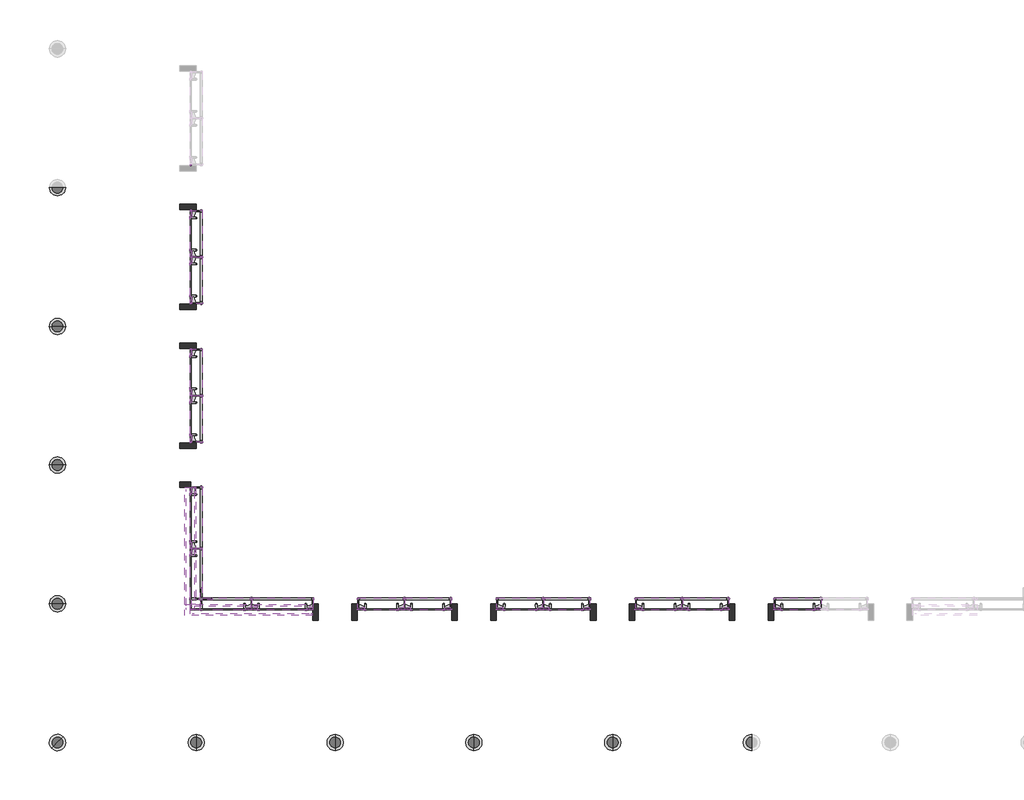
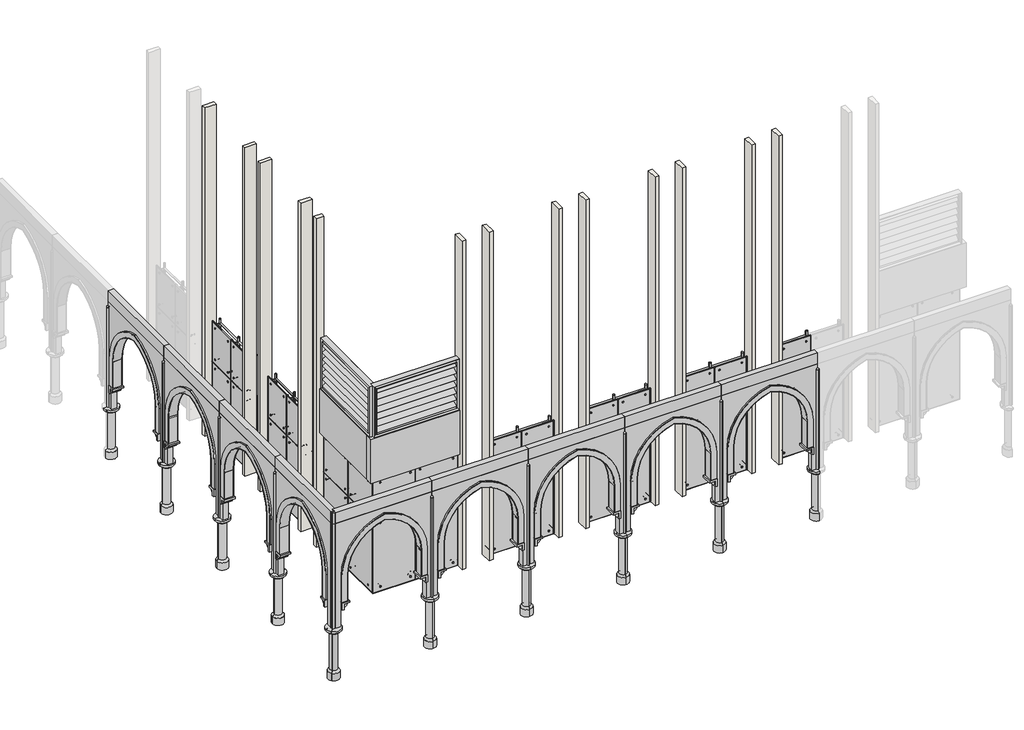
# One storey, part 1 of 3: 67 plates, 13 walls.
"""IFC4 building model written with IfcOpenShell, lengths in millimetres."""

from ifc_helpers import new_model, si_unit, frame, origin, place, context, project, spatial, polyline, outline, extrude, faceted_brep, transform, mapped, element, save
from components import plate_b319cc00, plate_6218623b, plate_8050aac1, plate_4a8f0e75, plate_5769654e, plate_331b9018, plate_eec9145b, plate_a1d4ab2c, plate_2770a3c2, plate_3a32f387, louvre_assembly_louvre_assembly_f5917f82, louvre_assembly_louvre_assembly_f5be2cc8, system_panel_glazed_bbb9c1de, system_panel_glazed_46e9ba5c, template_template_90c3116e, template_template_a81cd723, template_template_8af3e052, template_template_bfb4942e

model = new_model("IFC4")

# Units and contexts
model_context = context("Model", 3, world=origin())
ifc_project = project(units=[si_unit("LENGTHUNIT", "METRE", prefix="MILLI")], contexts=[model_context])

# Site, building, storey
site = spatial("IfcSite", under=ifc_project)
building = spatial("IfcBuilding", under=site)
storey = spatial("IfcBuildingStorey", under=building, Name="00_AR_GF_FFL", Elevation=0.0)

# Plates
placement = place(None, origin())
plate_shape = plate_b319cc00(model_context)
element("IfcPlate", 1, ObjectType="FLATNING_TRYOUT : FLATNING_TRYOUT", at=placement, inside=storey, context=model_context, shape_type="MappedRepresentation", body=[
    mapped(plate_shape, transform((-11033.5775323, -10369.430099, 0.0), x_axis=(0.0, -1.0, 0.0), y_axis=(1.0, 0.0, 0.0), z_axis=(0.0, 0.0, 1.0))),
])
element("IfcPlate", 2, ObjectType="FLATNING_TRYOUT : FLATNING_TRYOUT", at=placement, inside=storey, context=model_context, shape_type="MappedRepresentation", body=[
    mapped(plate_shape, transform((-11033.5775323, -9539.430099, 0.0), x_axis=(0.0, -1.0, 0.0), y_axis=(1.0, 0.0, 0.0), z_axis=(0.0, 0.0, 1.0))),
])
element("IfcPlate", 3, ObjectType="FLATNING_TRYOUT : FLATNING_TRYOUT", at=placement, inside=storey, context=model_context, shape_type="MappedRepresentation", body=[
    mapped(plate_shape, transform((-11033.5775323, -12869.430099, 0.0), x_axis=(0.0, -1.0, 0.0), y_axis=(1.0, 0.0, 0.0), z_axis=(0.0, 0.0, 1.0))),
])
element("IfcPlate", 4, ObjectType="FLATNING_TRYOUT : FLATNING_TRYOUT", at=placement, inside=storey, context=model_context, shape_type="MappedRepresentation", body=[
    mapped(plate_shape, transform((-11033.5775323, -12039.430099, 0.0), x_axis=(0.0, -1.0, 0.0), y_axis=(1.0, 0.0, 0.0), z_axis=(0.0, 0.0, 1.0))),
])
element("IfcPlate", 5, ObjectType="FLATNING_TRYOUT : FLATNING_TRYOUT", at=placement, inside=storey, context=model_context, shape_type="MappedRepresentation", body=[
    mapped(plate_shape, transform((-6758.5775323, -16314.430099, 0.0), x_axis=(1.0, 0.0, 0.0), y_axis=(0.0, 1.0, 0.0), z_axis=(0.0, 0.0, 1.0))),
])
element("IfcPlate", 6, ObjectType="FLATNING_TRYOUT : FLATNING_TRYOUT", at=placement, inside=storey, context=model_context, shape_type="MappedRepresentation", body=[
    mapped(plate_shape, transform((-7588.5775323, -16314.430099, 0.0), x_axis=(1.0, 0.0, 0.0), y_axis=(0.0, 1.0, 0.0), z_axis=(0.0, 0.0, 1.0))),
])
element("IfcPlate", 7, ObjectType="FLATNING_TRYOUT : FLATNING_TRYOUT", at=placement, inside=storey, context=model_context, shape_type="MappedRepresentation", body=[
    mapped(plate_shape, transform((-4258.5775323, -16314.430099, 0.0), x_axis=(1.0, 0.0, 0.0), y_axis=(0.0, 1.0, 0.0), z_axis=(0.0, 0.0, 1.0))),
])
element("IfcPlate", 8, ObjectType="FLATNING_TRYOUT : FLATNING_TRYOUT", at=placement, inside=storey, context=model_context, shape_type="MappedRepresentation", body=[
    mapped(plate_shape, transform((-5088.5775323, -16314.430099, 0.0), x_axis=(1.0, 0.0, 0.0), y_axis=(0.0, 1.0, 0.0), z_axis=(0.0, 0.0, 1.0))),
])
element("IfcPlate", 9, ObjectType="FLATNING_TRYOUT : FLATNING_TRYOUT", at=placement, inside=storey, context=model_context, shape_type="MappedRepresentation", body=[
    mapped(plate_shape, transform((-1758.5775323, -16314.430099, 0.0), x_axis=(1.0, 0.0, 0.0), y_axis=(0.0, 1.0, 0.0), z_axis=(0.0, 0.0, 1.0))),
])
element("IfcPlate", 10, ObjectType="FLATNING_TRYOUT : FLATNING_TRYOUT", at=placement, inside=storey, context=model_context, shape_type="MappedRepresentation", body=[
    mapped(plate_shape, transform((-2588.5775323, -16314.430099, 0.0), x_axis=(1.0, 0.0, 0.0), y_axis=(0.0, 1.0, 0.0), z_axis=(0.0, 0.0, 1.0))),
])
element("IfcPlate", 11, ObjectType="FLATNING_TRYOUT : FLATNING_TRYOUT", at=placement, inside=storey, context=model_context, shape_type="MappedRepresentation", body=[
    mapped(plate_shape, transform((-88.5775323, -16314.430099, 0.0), x_axis=(1.0, 0.0, 0.0), y_axis=(0.0, 1.0, 0.0), z_axis=(0.0, 0.0, 1.0))),
])
plate_2_shape = plate_6218623b(model_context)
element("IfcPlate", 12, ObjectType="FLATNING_TRYOUT : FLATNING_TRYOUT", at=placement, inside=storey, context=model_context, shape_type="MappedRepresentation", body=[
    mapped(plate_2_shape, transform((-11033.5775323, -10369.430099, 2000.0), x_axis=(0.0, -1.0, 0.0), y_axis=(1.0, 0.0, 0.0), z_axis=(0.0, 0.0, 1.0))),
])
element("IfcPlate", 13, ObjectType="FLATNING_TRYOUT : FLATNING_TRYOUT", at=placement, inside=storey, context=model_context, shape_type="MappedRepresentation", body=[
    mapped(plate_2_shape, transform((-11033.5775323, -9539.430099, 2000.0), x_axis=(0.0, -1.0, 0.0), y_axis=(1.0, 0.0, 0.0), z_axis=(0.0, 0.0, 1.0))),
])
element("IfcPlate", 14, ObjectType="FLATNING_TRYOUT : FLATNING_TRYOUT", at=placement, inside=storey, context=model_context, shape_type="MappedRepresentation", body=[
    mapped(plate_2_shape, transform((-11033.5775323, -12869.430099, 2000.0), x_axis=(0.0, -1.0, 0.0), y_axis=(1.0, 0.0, 0.0), z_axis=(0.0, 0.0, 1.0))),
])
element("IfcPlate", 15, ObjectType="FLATNING_TRYOUT : FLATNING_TRYOUT", at=placement, inside=storey, context=model_context, shape_type="MappedRepresentation", body=[
    mapped(plate_2_shape, transform((-11033.5775323, -12039.430099, 2000.0), x_axis=(0.0, -1.0, 0.0), y_axis=(1.0, 0.0, 0.0), z_axis=(0.0, 0.0, 1.0))),
])
element("IfcPlate", 16, ObjectType="FLATNING_TRYOUT : FLATNING_TRYOUT", at=placement, inside=storey, context=model_context, shape_type="MappedRepresentation", body=[
    mapped(plate_2_shape, transform((-6758.5775323, -16314.430099, 2000.0), x_axis=(1.0, 0.0, 0.0), y_axis=(0.0, 1.0, 0.0), z_axis=(0.0, 0.0, 1.0))),
])
element("IfcPlate", 17, ObjectType="FLATNING_TRYOUT : FLATNING_TRYOUT", at=placement, inside=storey, context=model_context, shape_type="MappedRepresentation", body=[
    mapped(plate_2_shape, transform((-7588.5775323, -16314.430099, 2000.0), x_axis=(1.0, 0.0, 0.0), y_axis=(0.0, 1.0, 0.0), z_axis=(0.0, 0.0, 1.0))),
])
element("IfcPlate", 18, ObjectType="FLATNING_TRYOUT : FLATNING_TRYOUT", at=placement, inside=storey, context=model_context, shape_type="MappedRepresentation", body=[
    mapped(plate_2_shape, transform((-4258.5775323, -16314.430099, 2000.0), x_axis=(1.0, 0.0, 0.0), y_axis=(0.0, 1.0, 0.0), z_axis=(0.0, 0.0, 1.0))),
])
element("IfcPlate", 19, ObjectType="FLATNING_TRYOUT : FLATNING_TRYOUT", at=placement, inside=storey, context=model_context, shape_type="MappedRepresentation", body=[
    mapped(plate_2_shape, transform((-5088.5775323, -16314.430099, 2000.0), x_axis=(1.0, 0.0, 0.0), y_axis=(0.0, 1.0, 0.0), z_axis=(0.0, 0.0, 1.0))),
])
element("IfcPlate", 20, ObjectType="FLATNING_TRYOUT : FLATNING_TRYOUT", at=placement, inside=storey, context=model_context, shape_type="MappedRepresentation", body=[
    mapped(plate_2_shape, transform((-1758.5775323, -16314.430099, 2000.0), x_axis=(1.0, 0.0, 0.0), y_axis=(0.0, 1.0, 0.0), z_axis=(0.0, 0.0, 1.0))),
])
element("IfcPlate", 21, ObjectType="FLATNING_TRYOUT : FLATNING_TRYOUT", at=placement, inside=storey, context=model_context, shape_type="MappedRepresentation", body=[
    mapped(plate_2_shape, transform((-2588.5775323, -16314.430099, 2000.0), x_axis=(1.0, 0.0, 0.0), y_axis=(0.0, 1.0, 0.0), z_axis=(0.0, 0.0, 1.0))),
])
element("IfcPlate", 22, ObjectType="FLATNING_TRYOUT : FLATNING_TRYOUT", at=placement, inside=storey, context=model_context, shape_type="MappedRepresentation", body=[
    mapped(plate_2_shape, transform((-88.5775323, -16314.430099, 2000.0), x_axis=(1.0, 0.0, 0.0), y_axis=(0.0, 1.0, 0.0), z_axis=(0.0, 0.0, 1.0))),
])
plate_3_shape = plate_8050aac1(model_context)
element("IfcPlate", 23, ObjectType="FLATNING_TRYOUT : FLATNING_TRYOUT", at=placement, inside=storey, context=model_context, shape_type="MappedRepresentation", body=[
    mapped(plate_3_shape, transform((-9376.0775323, -16314.430099, 0.0), x_axis=(-1.0, 0.0, 0.0), y_axis=(0.0, -1.0, 0.0), z_axis=(0.0, 0.0, 1.0))),
])
plate_4_shape = plate_4a8f0e75(model_context)
element("IfcPlate", 24, ObjectType="FLATNING_TRYOUT_CORNER : FLATNING_TRYOUT_CORNER", at=placement, inside=storey, context=model_context, shape_type="MappedRepresentation", body=[
    mapped(plate_4_shape, transform((-11033.5775323, -15761.930099, 0.0), x_axis=(0.0, -1.0, 0.0), y_axis=(1.0, 0.0, 0.0), z_axis=(0.0, 0.0, 1.0))),
])
plate_5_shape = plate_5769654e(model_context)
element("IfcPlate", 25, ObjectType="FLATNING_TRYOUT_CORNER : FLATNING_TRYOUT_CORNER", at=placement, inside=storey, context=model_context, shape_type="MappedRepresentation", body=[
    mapped(plate_5_shape, transform((-10481.0775323, -16314.430099, 0.0), x_axis=(-1.0, 0.0, 0.0), y_axis=(0.0, -1.0, 0.0), z_axis=(0.0, 0.0, 1.0))),
])
plate_6_shape = plate_331b9018(model_context)
element("IfcPlate", 26, ObjectType="FLATNING_TRYOUT : FLATNING_TRYOUT", at=placement, inside=storey, context=model_context, shape_type="MappedRepresentation", body=[
    mapped(plate_6_shape, transform((-11033.5775323, -14658.0252709, 0.0), x_axis=(0.0, 1.0, 0.0), y_axis=(-1.0, 0.0, 0.0), z_axis=(0.0, 0.0, 1.0))),
])
plate_7_shape = plate_eec9145b(model_context)
element("IfcPlate", 27, ObjectType="FLATNING_TRYOUT : FLATNING_TRYOUT", at=placement, inside=storey, context=model_context, shape_type="MappedRepresentation", body=[
    mapped(plate_7_shape, transform((-9376.0775323, -16314.430099, 2000.0), x_axis=(-1.0, 0.0, 0.0), y_axis=(0.0, -1.0, 0.0), z_axis=(0.0, 0.0, 1.0))),
])
plate_8_shape = plate_a1d4ab2c(model_context)
element("IfcPlate", 28, ObjectType="FLATNING_TRYOUT_CORNER : FLATNING_TRYOUT_CORNER", at=placement, inside=storey, context=model_context, shape_type="MappedRepresentation", body=[
    mapped(plate_8_shape, transform((-10481.0775323, -16314.430099, 2000.0), x_axis=(-1.0, 0.0, 0.0), y_axis=(0.0, -1.0, 0.0), z_axis=(0.0, 0.0, 1.0))),
])
plate_9_shape = plate_2770a3c2(model_context)
element("IfcPlate", 29, ObjectType="FLATNING_TRYOUT_CORNER : FLATNING_TRYOUT_CORNER", at=placement, inside=storey, context=model_context, shape_type="MappedRepresentation", body=[
    mapped(plate_9_shape, transform((-11033.5775323, -15761.930099, 2000.0), x_axis=(0.0, -1.0, 0.0), y_axis=(1.0, 0.0, 0.0), z_axis=(0.0, 0.0, 1.0))),
])
plate_10_shape = plate_3a32f387(model_context)
element("IfcPlate", 30, ObjectType="FLATNING_TRYOUT : FLATNING_TRYOUT", at=placement, inside=storey, context=model_context, shape_type="MappedRepresentation", body=[
    mapped(plate_10_shape, transform((-11033.5775323, -14658.0252709, 2000.0), x_axis=(0.0, 1.0, 0.0), y_axis=(-1.0, 0.0, 0.0), z_axis=(0.0, 0.0, 1.0))),
])
element("IfcPlate", 31, ObjectType="Generic - 200mm", at=placement, inside=storey, context=model_context, shape_type="Brep", body=[
    faceted_brep([(-8823.5775323, -16214.430099, 3105.0), (-10933.5775323, -16214.430099, 3105.0), (-11133.5775323, -16214.430099, 3105.0), (-11133.5775323, -16214.430099, 4305.0), (-10933.5775323, -16214.430099, 4305.0), (-8823.5775323, -16214.430099, 4305.0), (-8823.5775323, -16414.430099, 3105.0), (-8823.5775323, -16414.430099, 4305.0), (-11133.5775323, -16414.430099, 4305.0), (-11133.5775323, -16414.430099, 3105.0)], [[[0, 1, 2, 3, 4, 5]], [[6, 7, 8, 9]], [[2, 1, 0, 6, 9]], [[5, 4, 3, 8, 7]], [[3, 2, 9, 8]], [[0, 5, 7, 6]]]),
])
element("IfcPlate", 32, ObjectType="Generic - 200mm", at=placement, inside=storey, context=model_context, shape_type="SweptSolid", body=[
    extrude(outline(polyline([(-10933.5775323, -14106.6204427), (-10933.5775323, -16214.430099), (-11133.5775323, -16214.430099), (-11133.5775323, -14106.6204427), (-10933.5775323, -14106.6204427)])), frame((0.0, 0.0, 3105.0), z_axis=(0.0, 0.0, 1.0), x_axis=(1.0, 0.0, 0.0)), (0.0, 0.0, 1.0), 1200.0),
])
louvre_assembly_louvre_assembly_shape = louvre_assembly_louvre_assembly_f5917f82(model_context)
element("IfcPlate", 33, ObjectType="LOUVRE_ASSEMBLY : LOUVRE_ASSEMBLY", at=placement, inside=storey, context=model_context, shape_type="MappedRepresentation", body=[
    mapped(louvre_assembly_louvre_assembly_shape, transform((-9928.5775323, -16314.430099, 4305.0), x_axis=(-1.0, 0.0, 0.0), y_axis=(0.0, -1.0, 0.0), z_axis=(0.0, 0.0, 1.0))),
])
louvre_assembly_louvre_assembly_2_shape = louvre_assembly_louvre_assembly_f5be2cc8(model_context)
element("IfcPlate", 34, ObjectType="LOUVRE_ASSEMBLY : LOUVRE_ASSEMBLY", at=placement, inside=storey, context=model_context, shape_type="MappedRepresentation", body=[
    mapped(louvre_assembly_louvre_assembly_2_shape, transform((-11033.5775323, -15210.5252709, 4305.0), x_axis=(0.0, 1.0, 0.0), y_axis=(-1.0, 0.0, 0.0), z_axis=(0.0, 0.0, 1.0))),
])
system_panel_glazed_shape = system_panel_glazed_bbb9c1de(model_context)
element("IfcPlate", 35, ObjectType="System Panel : Glazed", at=placement, inside=storey, context=model_context, shape_type="MappedRepresentation", body=[
    mapped(system_panel_glazed_shape, transform((-11033.5775323, -8294.430099, 0.0), x_axis=(0.0, -1.0, 0.0), y_axis=(1.0, 0.0, 0.0), z_axis=(0.0, 0.0, 1.0))),
])
element("IfcPlate", 36, ObjectType="System Panel : Glazed", at=placement, inside=storey, context=model_context, shape_type="MappedRepresentation", body=[
    mapped(system_panel_glazed_shape, transform((-11033.5775323, -9114.430099, 0.0), x_axis=(0.0, -1.0, 0.0), y_axis=(1.0, 0.0, 0.0), z_axis=(0.0, 0.0, 1.0))),
])
element("IfcPlate", 37, ObjectType="System Panel : Glazed", at=placement, inside=storey, context=model_context, shape_type="MappedRepresentation", body=[
    mapped(system_panel_glazed_shape, transform((-11033.5775323, -10794.430099, 0.0), x_axis=(0.0, -1.0, 0.0), y_axis=(1.0, 0.0, 0.0), z_axis=(0.0, 0.0, 1.0))),
])
element("IfcPlate", 38, ObjectType="System Panel : Glazed", at=placement, inside=storey, context=model_context, shape_type="MappedRepresentation", body=[
    mapped(system_panel_glazed_shape, transform((-11033.5775323, -11614.430099, 0.0), x_axis=(0.0, -1.0, 0.0), y_axis=(1.0, 0.0, 0.0), z_axis=(0.0, 0.0, 1.0))),
])
element("IfcPlate", 39, ObjectType="System Panel : Glazed", at=placement, inside=storey, context=model_context, shape_type="MappedRepresentation", body=[
    mapped(system_panel_glazed_shape, transform((-11033.5775323, -13294.430099, 0.0), x_axis=(0.0, -1.0, 0.0), y_axis=(1.0, 0.0, 0.0), z_axis=(0.0, 0.0, 1.0))),
])
element("IfcPlate", 40, ObjectType="System Panel : Glazed", at=placement, inside=storey, context=model_context, shape_type="MappedRepresentation", body=[
    mapped(system_panel_glazed_shape, transform((-8013.5775323, -16314.430099, 0.0), x_axis=(1.0, 0.0, 0.0), y_axis=(0.0, 1.0, 0.0), z_axis=(0.0, 0.0, 1.0))),
])
element("IfcPlate", 41, ObjectType="System Panel : Glazed", at=placement, inside=storey, context=model_context, shape_type="MappedRepresentation", body=[
    mapped(system_panel_glazed_shape, transform((-6333.5775323, -16314.430099, 0.0), x_axis=(1.0, 0.0, 0.0), y_axis=(0.0, 1.0, 0.0), z_axis=(0.0, 0.0, 1.0))),
])
element("IfcPlate", 42, ObjectType="System Panel : Glazed", at=placement, inside=storey, context=model_context, shape_type="MappedRepresentation", body=[
    mapped(system_panel_glazed_shape, transform((-5513.5775323, -16314.430099, 0.0), x_axis=(1.0, 0.0, 0.0), y_axis=(0.0, 1.0, 0.0), z_axis=(0.0, 0.0, 1.0))),
])
element("IfcPlate", 43, ObjectType="System Panel : Glazed", at=placement, inside=storey, context=model_context, shape_type="MappedRepresentation", body=[
    mapped(system_panel_glazed_shape, transform((-3833.5775323, -16314.430099, 0.0), x_axis=(1.0, 0.0, 0.0), y_axis=(0.0, 1.0, 0.0), z_axis=(0.0, 0.0, 1.0))),
])
element("IfcPlate", 44, ObjectType="System Panel : Glazed", at=placement, inside=storey, context=model_context, shape_type="MappedRepresentation", body=[
    mapped(system_panel_glazed_shape, transform((-3013.5775323, -16314.430099, 0.0), x_axis=(1.0, 0.0, 0.0), y_axis=(0.0, 1.0, 0.0), z_axis=(0.0, 0.0, 1.0))),
])
element("IfcPlate", 45, ObjectType="System Panel : Glazed", at=placement, inside=storey, context=model_context, shape_type="MappedRepresentation", body=[
    mapped(system_panel_glazed_shape, transform((-1333.5775323, -16314.430099, 0.0), x_axis=(1.0, 0.0, 0.0), y_axis=(0.0, 1.0, 0.0), z_axis=(0.0, 0.0, 1.0))),
])
element("IfcPlate", 46, ObjectType="System Panel : Glazed", at=placement, inside=storey, context=model_context, shape_type="MappedRepresentation", body=[
    mapped(system_panel_glazed_shape, transform((-513.5775323, -16314.430099, 0.0), x_axis=(1.0, 0.0, 0.0), y_axis=(0.0, 1.0, 0.0), z_axis=(0.0, 0.0, 1.0))),
])
system_panel_glazed_2_shape = system_panel_glazed_46e9ba5c(model_context)
element("IfcPlate", 47, ObjectType="System Panel : Glazed", at=placement, inside=storey, context=model_context, shape_type="MappedRepresentation", body=[
    mapped(system_panel_glazed_2_shape, transform((-11033.5775323, -8294.430099, 2000.0), x_axis=(0.0, -1.0, 0.0), y_axis=(1.0, 0.0, 0.0), z_axis=(0.0, 0.0, 1.0))),
])
element("IfcPlate", 48, ObjectType="System Panel : Glazed", at=placement, inside=storey, context=model_context, shape_type="MappedRepresentation", body=[
    mapped(system_panel_glazed_2_shape, transform((-11033.5775323, -9114.430099, 2000.0), x_axis=(0.0, -1.0, 0.0), y_axis=(1.0, 0.0, 0.0), z_axis=(0.0, 0.0, 1.0))),
])
element("IfcPlate", 49, ObjectType="System Panel : Glazed", at=placement, inside=storey, context=model_context, shape_type="MappedRepresentation", body=[
    mapped(system_panel_glazed_2_shape, transform((-11033.5775323, -10794.430099, 2000.0), x_axis=(0.0, -1.0, 0.0), y_axis=(1.0, 0.0, 0.0), z_axis=(0.0, 0.0, 1.0))),
])
element("IfcPlate", 50, ObjectType="System Panel : Glazed", at=placement, inside=storey, context=model_context, shape_type="MappedRepresentation", body=[
    mapped(system_panel_glazed_2_shape, transform((-11033.5775323, -11614.430099, 2000.0), x_axis=(0.0, -1.0, 0.0), y_axis=(1.0, 0.0, 0.0), z_axis=(0.0, 0.0, 1.0))),
])
element("IfcPlate", 51, ObjectType="System Panel : Glazed", at=placement, inside=storey, context=model_context, shape_type="MappedRepresentation", body=[
    mapped(system_panel_glazed_2_shape, transform((-11033.5775323, -13294.430099, 2000.0), x_axis=(0.0, -1.0, 0.0), y_axis=(1.0, 0.0, 0.0), z_axis=(0.0, 0.0, 1.0))),
])
element("IfcPlate", 52, ObjectType="System Panel : Glazed", at=placement, inside=storey, context=model_context, shape_type="MappedRepresentation", body=[
    mapped(system_panel_glazed_2_shape, transform((-8013.5775323, -16314.430099, 2000.0), x_axis=(1.0, 0.0, 0.0), y_axis=(0.0, 1.0, 0.0), z_axis=(0.0, 0.0, 1.0))),
])
element("IfcPlate", 53, ObjectType="System Panel : Glazed", at=placement, inside=storey, context=model_context, shape_type="MappedRepresentation", body=[
    mapped(system_panel_glazed_2_shape, transform((-6333.5775323, -16314.430099, 2000.0), x_axis=(1.0, 0.0, 0.0), y_axis=(0.0, 1.0, 0.0), z_axis=(0.0, 0.0, 1.0))),
])
element("IfcPlate", 54, ObjectType="System Panel : Glazed", at=placement, inside=storey, context=model_context, shape_type="MappedRepresentation", body=[
    mapped(system_panel_glazed_2_shape, transform((-5513.5775323, -16314.430099, 2000.0), x_axis=(1.0, 0.0, 0.0), y_axis=(0.0, 1.0, 0.0), z_axis=(0.0, 0.0, 1.0))),
])
element("IfcPlate", 55, ObjectType="System Panel : Glazed", at=placement, inside=storey, context=model_context, shape_type="MappedRepresentation", body=[
    mapped(system_panel_glazed_2_shape, transform((-3833.5775323, -16314.430099, 2000.0), x_axis=(1.0, 0.0, 0.0), y_axis=(0.0, 1.0, 0.0), z_axis=(0.0, 0.0, 1.0))),
])
element("IfcPlate", 56, ObjectType="System Panel : Glazed", at=placement, inside=storey, context=model_context, shape_type="MappedRepresentation", body=[
    mapped(system_panel_glazed_2_shape, transform((-3013.5775323, -16314.430099, 2000.0), x_axis=(1.0, 0.0, 0.0), y_axis=(0.0, 1.0, 0.0), z_axis=(0.0, 0.0, 1.0))),
])
element("IfcPlate", 57, ObjectType="System Panel : Glazed", at=placement, inside=storey, context=model_context, shape_type="MappedRepresentation", body=[
    mapped(system_panel_glazed_2_shape, transform((-1333.5775323, -16314.430099, 2000.0), x_axis=(1.0, 0.0, 0.0), y_axis=(0.0, 1.0, 0.0), z_axis=(0.0, 0.0, 1.0))),
])
element("IfcPlate", 58, ObjectType="System Panel : Glazed", at=placement, inside=storey, context=model_context, shape_type="MappedRepresentation", body=[
    mapped(system_panel_glazed_2_shape, transform((-513.5775323, -16314.430099, 2000.0), x_axis=(1.0, 0.0, 0.0), y_axis=(0.0, 1.0, 0.0), z_axis=(0.0, 0.0, 1.0))),
])
template_template_shape = template_template_90c3116e(model_context)
element("IfcPlate", 59, ObjectType="TEMPLATE : TEMPLATE", at=placement, inside=storey, context=model_context, shape_type="MappedRepresentation", body=[
    mapped(template_template_shape, transform((-13423.5775323, -9954.430099, 0.0), x_axis=(0.0, 1.0, 0.0), y_axis=(-1.0, 0.0, 0.0), z_axis=(0.0, 0.0, 1.0))),
])
element("IfcPlate", 60, ObjectType="TEMPLATE : TEMPLATE", at=placement, inside=storey, context=model_context, shape_type="MappedRepresentation", body=[
    mapped(template_template_shape, transform((-13423.5775323, -12454.430099, 0.0), x_axis=(0.0, 1.0, 0.0), y_axis=(-1.0, 0.0, 0.0), z_axis=(0.0, 0.0, 1.0))),
])
element("IfcPlate", 61, ObjectType="TEMPLATE : TEMPLATE", at=placement, inside=storey, context=model_context, shape_type="MappedRepresentation", body=[
    mapped(template_template_shape, transform((-13423.5775323, -14954.430099, 0.0), x_axis=(0.0, 1.0, 0.0), y_axis=(-1.0, 0.0, 0.0), z_axis=(0.0, 0.0, 1.0))),
])
template_template_2_shape = template_template_a81cd723(model_context)
element("IfcPlate", 62, ObjectType="TEMPLATE : TEMPLATE", at=placement, inside=storey, context=model_context, shape_type="MappedRepresentation", body=[
    mapped(template_template_2_shape, transform((-2173.5775323, -18704.430099, 0.0), x_axis=(1.0, 0.0, 0.0), y_axis=(0.0, 1.0, 0.0), z_axis=(0.0, 0.0, 1.0))),
])
element("IfcPlate", 63, ObjectType="TEMPLATE : TEMPLATE", at=placement, inside=storey, context=model_context, shape_type="MappedRepresentation", body=[
    mapped(template_template_2_shape, transform((-4673.5775323, -18704.430099, 0.0), x_axis=(1.0, 0.0, 0.0), y_axis=(0.0, 1.0, 0.0), z_axis=(0.0, 0.0, 1.0))),
])
element("IfcPlate", 64, ObjectType="TEMPLATE : TEMPLATE", at=placement, inside=storey, context=model_context, shape_type="MappedRepresentation", body=[
    mapped(template_template_2_shape, transform((-7173.5775323, -18704.430099, 0.0), x_axis=(1.0, 0.0, 0.0), y_axis=(0.0, 1.0, 0.0), z_axis=(0.0, 0.0, 1.0))),
])
element("IfcPlate", 65, ObjectType="TEMPLATE : TEMPLATE", at=placement, inside=storey, context=model_context, shape_type="MappedRepresentation", body=[
    mapped(template_template_2_shape, transform((-9673.5775323, -18704.430099, 0.0), x_axis=(1.0, 0.0, 0.0), y_axis=(0.0, 1.0, 0.0), z_axis=(0.0, 0.0, 1.0))),
])
template_template_3_shape = template_template_8af3e052(model_context)
element("IfcPlate", 66, ObjectType="TEMPLATE : TEMPLATE", at=placement, inside=storey, context=model_context, shape_type="MappedRepresentation", body=[
    mapped(template_template_3_shape, transform((-12173.5775323, -18704.430099, 0.0), x_axis=(1.0, 0.0, 0.0), y_axis=(0.0, 1.0, 0.0), z_axis=(0.0, 0.0, 1.0))),
])
template_template_4_shape = template_template_bfb4942e(model_context)
element("IfcPlate", 67, ObjectType="TEMPLATE : TEMPLATE", at=placement, inside=storey, context=model_context, shape_type="MappedRepresentation", body=[
    mapped(template_template_4_shape, transform((-13423.5775323, -17454.430099, 0.0), x_axis=(0.0, 1.0, 0.0), y_axis=(-1.0, 0.0, 0.0), z_axis=(0.0, 0.0, 1.0))),
])

# Walls
element("IfcWall", 68, ObjectType="Generic - 100mm", at=placement, inside=storey, context=model_context, shape_type="Brep", body=[
    faceted_brep([(-5523.5775323, -16504.430099, 0.0), (-5523.5775323, -16204.430099, 0.0), (-5523.5775323, -16204.430099, 3105.0), (-5523.5775323, -16204.430099, 4305.0), (-5523.5775323, -16204.430099, 5700.0), (-5523.5775323, -16204.430099, 9000.0), (-5523.5775323, -16504.430099, 9000.0), (-5523.5775323, -16504.430099, 4250.0), (-5523.5775323, -16504.430099, 4000.0), (-5623.5775323, -16504.430099, 0.0), (-5623.5775323, -16504.430099, 4000.0), (-5623.5775323, -16504.430099, 4250.0), (-5623.5775323, -16504.430099, 9000.0), (-5623.5775323, -16204.430099, 9000.0), (-5623.5775323, -16204.430099, 0.0)], [[[0, 1, 2, 3, 4, 5, 6, 7, 8]], [[9, 10, 11, 12, 13, 14]], [[1, 14, 13, 5, 4, 3, 2]], [[1, 0, 9, 14]], [[6, 5, 13, 12]], [[0, 8, 7, 6, 12, 11, 10, 9]]]),
])
element("IfcWall", 69, ObjectType="Generic - 100mm", at=placement, inside=storey, context=model_context, shape_type="Brep", body=[
    faceted_brep([(-3723.5775323, -16504.430099, 0.0), (-3723.5775323, -16204.430099, 0.0), (-3723.5775323, -16204.430099, 9000.0), (-3723.5775323, -16504.430099, 9000.0), (-3723.5775323, -16504.430099, 4250.0), (-3723.5775323, -16504.430099, 4000.0), (-3823.5775323, -16504.430099, 0.0), (-3823.5775323, -16504.430099, 4000.0), (-3823.5775323, -16504.430099, 4250.0), (-3823.5775323, -16504.430099, 9000.0), (-3823.5775323, -16204.430099, 9000.0), (-3823.5775323, -16204.430099, 5700.0), (-3823.5775323, -16204.430099, 4305.0), (-3823.5775323, -16204.430099, 3105.0), (-3823.5775323, -16204.430099, 0.0)], [[[0, 1, 2, 3, 4, 5]], [[6, 7, 8, 9, 10, 11, 12, 13, 14]], [[1, 14, 13, 12, 11, 10, 2]], [[1, 0, 6, 14]], [[3, 2, 10, 9]], [[0, 5, 4, 3, 9, 8, 7, 6]]]),
])
element("IfcWall", 70, ObjectType="Generic - 100mm", at=placement, inside=storey, context=model_context, shape_type="Brep", body=[
    faceted_brep([(-8023.5775323, -16504.430099, 0.0), (-8023.5775323, -16204.430099, 0.0), (-8023.5775323, -16204.430099, 5700.0), (-8023.5775323, -16204.430099, 9000.0), (-8023.5775323, -16504.430099, 9000.0), (-8023.5775323, -16504.430099, 4250.0), (-8023.5775323, -16504.430099, 4000.0), (-8123.5775323, -16504.430099, 0.0), (-8123.5775323, -16504.430099, 4000.0), (-8123.5775323, -16504.430099, 4250.0), (-8123.5775323, -16504.430099, 9000.0), (-8123.5775323, -16204.430099, 9000.0), (-8123.5775323, -16204.430099, 0.0)], [[[0, 1, 2, 3, 4, 5, 6]], [[7, 8, 9, 10, 11, 12]], [[3, 2, 1, 12, 11]], [[1, 0, 7, 12]], [[4, 3, 11, 10]], [[0, 6, 5, 4, 10, 9, 8, 7]]]),
])
element("IfcWall", 71, ObjectType="Generic - 100mm", at=placement, inside=storey, context=model_context, shape_type="Brep", body=[
    faceted_brep([(-6223.5775323, -16504.430099, 0.0), (-6223.5775323, -16204.430099, 0.0), (-6223.5775323, -16204.430099, 9000.0), (-6223.5775323, -16504.430099, 9000.0), (-6223.5775323, -16504.430099, 4250.0), (-6223.5775323, -16504.430099, 4000.0), (-6323.5775323, -16504.430099, 0.0), (-6323.5775323, -16504.430099, 4000.0), (-6323.5775323, -16504.430099, 4250.0), (-6323.5775323, -16504.430099, 9000.0), (-6323.5775323, -16204.430099, 9000.0), (-6323.5775323, -16204.430099, 5700.0), (-6323.5775323, -16204.430099, 0.0)], [[[0, 1, 2, 3, 4, 5]], [[6, 7, 8, 9, 10, 11, 12]], [[2, 1, 12, 11, 10]], [[1, 0, 6, 12]], [[3, 2, 10, 9]], [[0, 5, 4, 3, 9, 8, 7, 6]]]),
])
element("IfcWall", 72, ObjectType="Generic - 100mm", at=placement, inside=storey, context=model_context, shape_type="Brep", body=[
    faceted_brep([(-3023.5775323, -16504.430099, 0.0), (-3023.5775323, -16204.430099, 0.0), (-3023.5775323, -16204.430099, 3105.0), (-3023.5775323, -16204.430099, 4305.0), (-3023.5775323, -16204.430099, 5700.0), (-3023.5775323, -16204.430099, 9000.0), (-3023.5775323, -16504.430099, 9000.0), (-3023.5775323, -16504.430099, 4250.0), (-3023.5775323, -16504.430099, 4000.0), (-3123.5775323, -16504.430099, 0.0), (-3123.5775323, -16504.430099, 4000.0), (-3123.5775323, -16504.430099, 4250.0), (-3123.5775323, -16504.430099, 9000.0), (-3123.5775323, -16204.430099, 9000.0), (-3123.5775323, -16204.430099, 0.0)], [[[0, 1, 2, 3, 4, 5, 6, 7, 8]], [[9, 10, 11, 12, 13, 14]], [[5, 4, 3, 2, 1, 14, 13]], [[1, 0, 9, 14]], [[6, 5, 13, 12]], [[0, 8, 7, 6, 12, 11, 10, 9]]]),
])
element("IfcWall", 73, ObjectType="Generic - 100mm", at=placement, inside=storey, context=model_context, shape_type="Brep", body=[
    faceted_brep([(-1223.5775323, -16504.430099, 0.0), (-1223.5775323, -16204.430099, 0.0), (-1223.5775323, -16204.430099, 9000.0), (-1223.5775323, -16504.430099, 9000.0), (-1223.5775323, -16504.430099, 4250.0), (-1223.5775323, -16504.430099, 4000.0), (-1323.5775323, -16504.430099, 0.0), (-1323.5775323, -16504.430099, 4000.0), (-1323.5775323, -16504.430099, 4250.0), (-1323.5775323, -16504.430099, 9000.0), (-1323.5775323, -16204.430099, 9000.0), (-1323.5775323, -16204.430099, 5700.0), (-1323.5775323, -16204.430099, 4305.0), (-1323.5775323, -16204.430099, 3105.0), (-1323.5775323, -16204.430099, 0.0)], [[[0, 1, 2, 3, 4, 5]], [[6, 7, 8, 9, 10, 11, 12, 13, 14]], [[2, 1, 14, 13, 12, 11, 10]], [[1, 0, 6, 14]], [[3, 2, 10, 9]], [[0, 5, 4, 3, 9, 8, 7, 6]]]),
])
element("IfcWall", 74, ObjectType="Generic - 100mm", at=placement, inside=storey, context=model_context, shape_type="Brep", body=[
    faceted_brep([(-523.5775323, -16504.430099, 0.0), (-523.5775323, -16204.430099, 0.0), (-523.5775323, -16204.430099, 3105.0), (-523.5775323, -16204.430099, 4305.0), (-523.5775323, -16204.430099, 5700.0), (-523.5775323, -16204.430099, 9000.0), (-523.5775323, -16504.430099, 9000.0), (-523.5775323, -16504.430099, 4250.0), (-523.5775323, -16504.430099, 4000.0), (-623.5775323, -16504.430099, 0.0), (-623.5775323, -16504.430099, 4000.0), (-623.5775323, -16504.430099, 4250.0), (-623.5775323, -16504.430099, 9000.0), (-623.5775323, -16204.430099, 9000.0), (-623.5775323, -16204.430099, 0.0)], [[[0, 1, 2, 3, 4, 5, 6, 7, 8]], [[9, 10, 11, 12, 13, 14]], [[5, 4, 3, 2, 1, 14, 13]], [[1, 0, 9, 14]], [[6, 5, 13, 12]], [[0, 8, 7, 6, 12, 11, 10, 9]]]),
])
element("IfcWall", 75, ObjectType="Generic - 100mm", at=placement, inside=storey, context=model_context, shape_type="Brep", body=[
    faceted_brep([(-8723.5775323, -16504.430099, 0.0), (-8723.5775323, -16204.430099, 0.0), (-8723.5775323, -16204.430099, 9000.0), (-8723.5775323, -16504.430099, 9000.0), (-8723.5775323, -16504.430099, 4250.0), (-8723.5775323, -16504.430099, 4000.0), (-8823.5775323, -16504.430099, 0.0), (-8823.5775323, -16504.430099, 4000.0), (-8823.5775323, -16504.430099, 4250.0), (-8823.5775323, -16504.430099, 9000.0), (-8823.5775323, -16204.430099, 9000.0), (-8823.5775323, -16204.430099, 5700.0), (-8823.5775323, -16204.430099, 0.0)], [[[0, 1, 2, 3, 4, 5]], [[6, 7, 8, 9, 10, 11, 12]], [[1, 0, 6, 12]], [[3, 2, 10, 9]], [[0, 5, 4, 3, 9, 8, 7, 6]], [[2, 1, 12, 11, 10]]]),
])
element("IfcWall", 76, ObjectType="Generic - 100mm", at=placement, inside=storey, context=model_context, shape_type="Brep", body=[
    faceted_brep([(-11223.5775323, -9104.430099, 0.0), (-10923.5775323, -9104.430099, 0.0), (-10923.5775323, -9104.430099, 3105.0), (-10923.5775323, -9104.430099, 4305.0), (-10923.5775323, -9104.430099, 9000.0), (-11223.5775323, -9104.430099, 9000.0), (-11223.5775323, -9104.430099, 4250.0), (-11223.5775323, -9104.430099, 4000.0), (-11223.5775323, -9004.430099, 0.0), (-11223.5775323, -9004.430099, 4000.0), (-11223.5775323, -9004.430099, 4250.0), (-11223.5775323, -9004.430099, 9000.0), (-10923.5775323, -9004.430099, 9000.0), (-10923.5775323, -9004.430099, 0.0)], [[[0, 1, 2, 3, 4, 5, 6, 7]], [[8, 9, 10, 11, 12, 13]], [[1, 0, 8, 13]], [[5, 4, 12, 11]], [[0, 7, 6, 5, 11, 10, 9, 8]], [[4, 3, 2, 1, 13, 12]]]),
])
element("IfcWall", 77, ObjectType="Generic - 100mm", at=placement, inside=storey, context=model_context, shape_type="Brep", body=[
    faceted_brep([(-11221.3871887, -10904.430099, 0.0), (-10923.5775323, -10904.430099, 0.0), (-10923.5775323, -10904.430099, 9000.0), (-11221.3871887, -10904.430099, 9000.0), (-11221.3871887, -10804.430099, 0.0), (-11221.3871887, -10804.430099, 9000.0), (-10923.5775323, -10804.430099, 9000.0), (-10923.5775323, -10804.430099, 4305.0), (-10923.5775323, -10804.430099, 3105.0), (-10923.5775323, -10804.430099, 0.0)], [[[0, 1, 2, 3]], [[4, 5, 6, 7, 8, 9]], [[1, 0, 4, 9]], [[3, 2, 6, 5]], [[0, 3, 5, 4]], [[2, 1, 9, 8, 7, 6]]]),
])
element("IfcWall", 78, ObjectType="Generic - 100mm", at=placement, inside=storey, context=model_context, shape_type="Brep", body=[
    faceted_brep([(-11221.3871887, -11604.430099, 0.0), (-10923.5775323, -11604.430099, 0.0), (-10923.5775323, -11604.430099, 3105.0), (-10923.5775323, -11604.430099, 4305.0), (-10923.5775323, -11604.430099, 9000.0), (-11221.3871887, -11604.430099, 9000.0), (-11221.3871887, -11604.430099, 4250.0), (-11221.3871887, -11604.430099, 4000.0), (-11221.3871887, -11504.430099, 0.0), (-11221.3871887, -11504.430099, 4000.0), (-11221.3871887, -11504.430099, 4250.0), (-11221.3871887, -11504.430099, 9000.0), (-10923.5775323, -11504.430099, 9000.0), (-10923.5775323, -11504.430099, 0.0)], [[[0, 1, 2, 3, 4, 5, 6, 7]], [[8, 9, 10, 11, 12, 13]], [[1, 0, 8, 13]], [[5, 4, 12, 11]], [[0, 7, 6, 5, 11, 10, 9, 8]], [[4, 3, 2, 1, 13, 12]]]),
])
element("IfcWall", 79, ObjectType="Generic - 100mm", at=placement, inside=storey, context=model_context, shape_type="Brep", body=[
    faceted_brep([(-11221.3871887, -13404.430099, 0.0), (-10923.5775323, -13404.430099, 0.0), (-10923.5775323, -13404.430099, 9000.0), (-11221.3871887, -13404.430099, 9000.0), (-11221.3871887, -13304.430099, 0.0), (-11221.3871887, -13304.430099, 9000.0), (-10923.5775323, -13304.430099, 9000.0), (-10923.5775323, -13304.430099, 4305.0), (-10923.5775323, -13304.430099, 3105.0), (-10923.5775323, -13304.430099, 0.0)], [[[0, 1, 2, 3]], [[4, 5, 6, 7, 8, 9]], [[1, 0, 4, 9]], [[3, 2, 6, 5]], [[0, 3, 5, 4]], [[2, 1, 9, 8, 7, 6]]]),
])
element("IfcWall", 80, ObjectType="Generic - 100mm", at=placement, inside=storey, context=model_context, shape_type="Brep", body=[
    faceted_brep([(-11223.5775323, -14104.430099, 0.0), (-11023.5775323, -14104.430099, 0.0), (-11023.5775323, -14104.430099, 9000.0), (-11223.5775323, -14104.430099, 9000.0), (-11223.5775323, -14104.430099, 4250.0), (-11223.5775323, -14104.430099, 4000.0), (-11223.5775323, -14004.430099, 0.0), (-11223.5775323, -14004.430099, 4000.0), (-11223.5775323, -14004.430099, 4250.0), (-11223.5775323, -14004.430099, 9000.0), (-11023.5775323, -14004.430099, 9000.0), (-11023.5775323, -14004.430099, 0.0)], [[[0, 1, 2, 3, 4, 5]], [[6, 7, 8, 9, 10, 11]], [[1, 0, 6, 11]], [[2, 1, 11, 10]], [[3, 2, 10, 9]], [[0, 5, 4, 3, 9, 8, 7, 6]]]),
])

save(model, "model.ifc")
